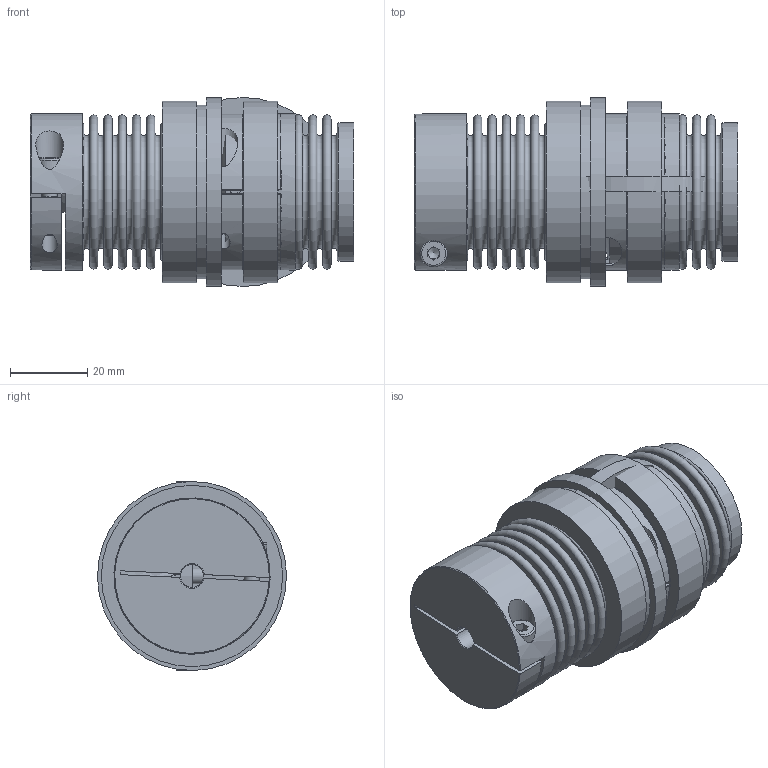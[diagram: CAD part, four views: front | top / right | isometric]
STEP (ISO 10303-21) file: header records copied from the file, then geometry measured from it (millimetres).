
FILE_DESCRIPTION( ( 'Unknown' ), '1' );
FILE_NAME( 'C:/Dokumente und Einstellungen/SKarpstein/Desktop/Korrigierte 3D Modelle/KBK-BKK-10-65.stp', 'Unknown', ( 'Unknown' ), ( 'Unknown' ), 'XStep 1.0', 'Unknown', ' ' );
FILE_SCHEMA( ( 'automotive_design' ) );
Length unit declared in the file: millimetre
Products named in the file (11): Assem1; Assem2; Zylinderschraube DIN 912; Druckring 10; L-K-10 Grundteil; Klemmnabe 7-10; Stellring 10; Flansch BK10; KN10_Standard_5; Socket Head Cap Screw_DIN_DIN 912 M4 x 16 --- 16N_4; BK100_Standard_1
Bounding box: 83.81 x 48.99 x 49 mm (x, y, z)
Volume: 118856.1 mm3; surface area: 91796.1 mm2
Topology: 19 solids, 19 shells, 367 faces, 766 edges, 503 vertices
Faces by surface type: plane 192, cylinder 84, torus 62, cone 29
Full cylindrical faces by diameter (mm): 2.459 x4, 3.242 x2, 4 x7, 4.2 x4, 6 x4, 7 x5, 7.2 x2, 7.3 x2, 19 x2, 20 x4, 22 x2, 24 x4, 25 x2, 26 x2, 29.993 x2, 32 x2, 35.2 x4, 35.8 x4, 38 x2, 40 x2, 40.5 x2, 45 x2, 47 x2, 49 x2
Entity records: 5311 total; most frequent: CARTESIAN_POINT 1174, DIRECTION 763, ORIENTED_EDGE 560, AXIS2_PLACEMENT_3D 335, EDGE_LOOP 305, EDGE_CURVE 280, FACE_OUTER_BOUND 242, VERTEX_POINT 226
